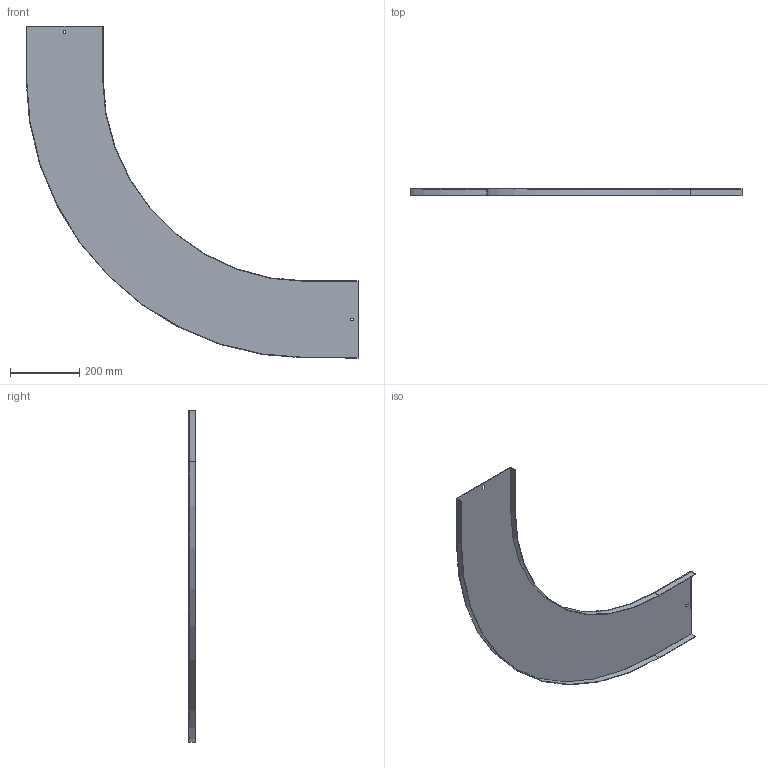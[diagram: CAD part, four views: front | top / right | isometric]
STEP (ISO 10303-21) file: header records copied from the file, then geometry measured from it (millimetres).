
FILE_DESCRIPTION (( 'STEP AP214' ), '1' );
FILE_NAME ('10N6P200.step', '2025-02-21T13:37:04', ( '' ), ( '' ), 'SwSTEP 2.0', 'SolidWorks 2023', '' );
FILE_SCHEMA (( 'AUTOMOTIVE_DESIGN' ));
Length unit declared in the file: millimetre
Products named in the file (1): 10N6P200
Bounding box: 961.5 x 20 x 961.5 mm (x, y, z)
Volume: 545651.9 mm3; surface area: 732607.5 mm2
Topology: 1 solids, 1 shells, 26 faces, 72 edges, 48 vertices
Faces by surface type: plane 22, cylinder 4
Entity records: 855 total; most frequent: CARTESIAN_POINT 147, ORIENTED_EDGE 144, DIRECTION 134, EDGE_CURVE 72, VECTOR 64, LINE 64, VERTEX_POINT 48, AXIS2_PLACEMENT_3D 35
